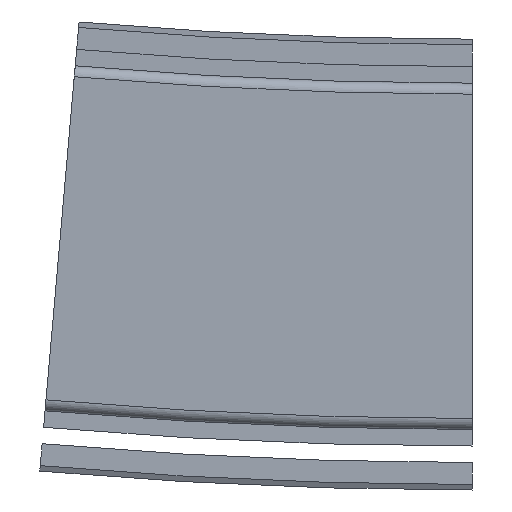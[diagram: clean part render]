
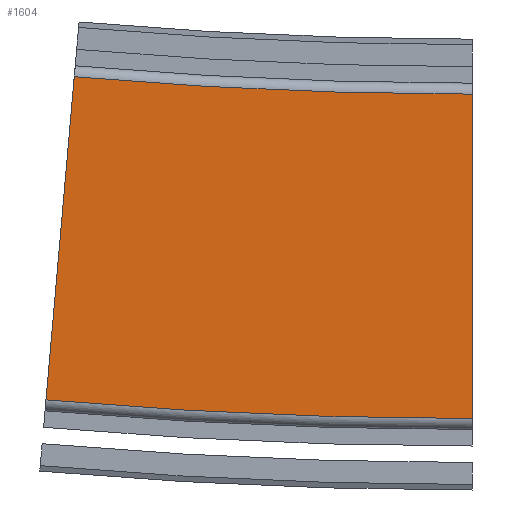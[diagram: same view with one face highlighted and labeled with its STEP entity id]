
A CAD part, front view. The second image highlights one B-rep face of the part: STEP entity #1604.
In plain terms, the highlighted planar face has unit normal (0, -1, 0).
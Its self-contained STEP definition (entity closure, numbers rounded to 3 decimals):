
#140=PLANE('',#1768);
#227=FACE_OUTER_BOUND('',#319,.T.);
#319=EDGE_LOOP('',(#1408,#1409,#1410,#1411));
#361=CIRCLE('',#1715,830.5);
#380=CIRCLE('',#1751,889.5);
#512=LINE('',#7343,#638);
#513=LINE('',#7344,#639);
#638=VECTOR('',#2170,10.);
#639=VECTOR('',#2171,10.);
#748=VERTEX_POINT('',#7193);
#749=VERTEX_POINT('',#7195);
#780=VERTEX_POINT('',#7292);
#782=VERTEX_POINT('',#7295);
#955=EDGE_CURVE('',#748,#749,#361,.T.);
#1004=EDGE_CURVE('',#780,#782,#380,.T.);
#1028=EDGE_CURVE('',#748,#780,#512,.T.);
#1029=EDGE_CURVE('',#782,#749,#513,.T.);
#1408=ORIENTED_EDGE('',*,*,#1028,.F.);
#1409=ORIENTED_EDGE('',*,*,#955,.T.);
#1410=ORIENTED_EDGE('',*,*,#1029,.F.);
#1411=ORIENTED_EDGE('',*,*,#1004,.F.);
#1604=ADVANCED_FACE('',(#227),#140,.T.);
#1715=AXIS2_PLACEMENT_3D('',#7197,#2018,#2019);
#1751=AXIS2_PLACEMENT_3D('',#7296,#2120,#2121);
#1768=AXIS2_PLACEMENT_3D('',#7342,#2168,#2169);
#2018=DIRECTION('center_axis',(0.,1.,0.));
#2019=DIRECTION('ref_axis',(0.,0.,
-1.));
#2120=DIRECTION('center_axis',(0.,1.,0.));
#2121=DIRECTION('ref_axis',(0.,0.,
-1.));
#2168=DIRECTION('center_axis',(0.,-1.,0.));
#2169=DIRECTION('ref_axis',(0.,0.,-1.));
#2170=DIRECTION('',(0.,0.,-1.));
#2171=DIRECTION('',(0.087,0.,0.996));
#7193=CARTESIAN_POINT('',(0.,-73.,29.5));
#7195=CARTESIAN_POINT('',(-72.383,-73.,32.66));
#7197=CARTESIAN_POINT('Origin',(0.,-73.,
860.));
#7292=CARTESIAN_POINT('',(0.,-73.,-29.5));
#7295=CARTESIAN_POINT('',(-77.525,-73.,-26.115));
#7296=CARTESIAN_POINT('Origin',(0.,-73.,
860.));
#7342=CARTESIAN_POINT('Origin',(0.,-73.,-5.5));
#7343=CARTESIAN_POINT('',(0.,-73.,5.5));
#7344=CARTESIAN_POINT('',(-75.433,-73.,-2.207));
